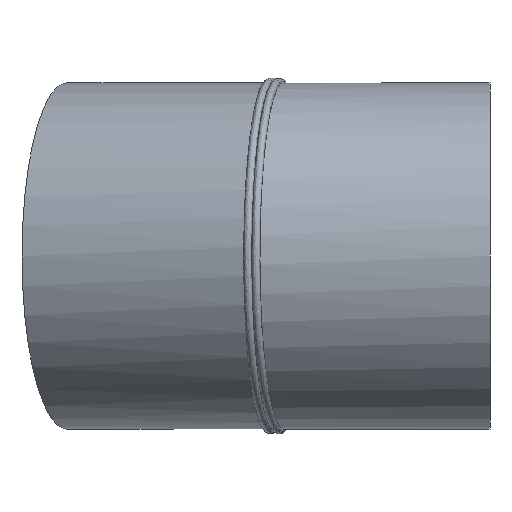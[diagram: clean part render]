
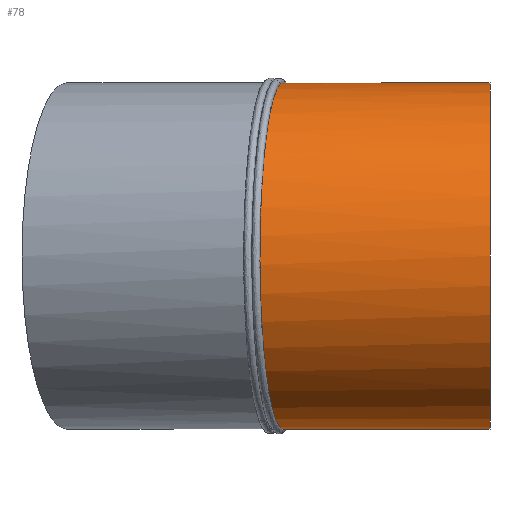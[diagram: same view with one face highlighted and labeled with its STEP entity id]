
A CAD part, left-side view. The second image highlights one B-rep face of the part: STEP entity #78.
In plain terms, the highlighted cylindrical face has radius 315 mm (diameter 630 mm), a full revolution.
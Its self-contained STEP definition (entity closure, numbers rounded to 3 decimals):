
#32=B_SPLINE_CURVE_WITH_KNOTS('',3,(#131,#132,#133,#134,#135,#136,#137,
#138,#139,#140,#141,#142,#143,#144,#145,#146,#147,#148,#149,#150,#151,#152,
#153,#154,#155,#156,#157,#158,#159,#160,#161,#162,#163,#164,#165,#166,#167,
#168,#169,#170,#171,#172,#173,#174,#175,#176,#177,#178,#179,#180,#181,#182,
#183,#184,#185,#186,#187,#188,#189,#190,#191,#192,#193,#194,#195,#196,#197,
#198,#199,#200,#201,#202,#203,#204,#205,#206,#207,#208,#209,#210,#211,#212,
#213,#214,#215,#216,#217,#218,#219,#220,#221,#222,#223,#224,#225,#226,#227,
#228,#229,#230,#231),.UNSPECIFIED.,.T.,.F.,(1,1,1,1,1,1,1,1,1,1,1,1,1,1,
1,1,1,1,1,1,1,1,1,1,1,1,1,1,1,1,1,1,1,1,1,1,1,1,1,1,1,1,1,1,1,1,1,1,1,1,
1,1,1,1,1,1,1,1,1,1,1,1,1,1,1,1,1,1,1,1,1,1,1,1,1,1,1,1,1,1,1,1,1,1,1,1,
1,1,1,1,1,1,1,1,1,1,1,1,1,1,1,1,1,1,1),(-0.062,-0.031,
-0.016,0.,0.016,0.031,
0.062,0.078,0.094,0.125,
0.156,0.172,0.187,0.203,
0.218,0.234,0.25,0.281,
0.296,0.312,0.328,0.343,
0.359,0.374,0.39,0.406,
0.437,0.452,0.468,0.499,
0.53,0.546,0.562,0.593,
0.624,0.639,0.655,0.671,
0.686,0.702,0.717,0.749,
0.764,0.78,0.811,0.842,
0.858,0.873,0.905,0.936,
0.967,0.983,0.998,1.014,
1.029,1.045,1.061,1.076,1.092,
1.123,1.139,1.154,1.185,1.217,
1.232,1.248,1.279,1.31,1.341,
1.357,1.373,1.388,1.404,1.435,
1.466,1.482,1.497,1.513,1.529,
1.56,1.575,1.591,1.607,1.622,
1.638,1.653,1.685,1.716,1.731,
1.747,1.778,1.809,1.825,1.841,
1.856,1.872,1.887,1.903,1.934,
1.965,1.981,1.996,2.012,2.028,
2.059),.UNSPECIFIED.);
#34=ORIENTED_EDGE('',*,*,#44,.T.);
#35=ORIENTED_EDGE('',*,*,#45,.F.);
#44=EDGE_CURVE('',#49,#49,#54,.T.);
#45=EDGE_CURVE('',#50,#50,#32,.T.);
#49=VERTEX_POINT('',#130);
#50=VERTEX_POINT('',#232);
#54=CIRCLE('',#99,315.);
#56=EDGE_LOOP('',(#34));
#57=EDGE_LOOP('',(#35));
#66=FACE_BOUND('',#56,.T.);
#67=FACE_BOUND('',#57,.T.);
#76=CYLINDRICAL_SURFACE('',#98,315.);
#78=ADVANCED_FACE('',(#66,#67),#76,.T.);
#98=AXIS2_PLACEMENT_3D('',#128,#109,#110);
#99=AXIS2_PLACEMENT_3D('',#129,#111,#112);
#109=DIRECTION('',(0.,-1.,0.));
#110=DIRECTION('',(0.,0.,-1.));
#111=DIRECTION('',(0.,1.,0.));
#112=DIRECTION('',(1.,0.,0.));
#128=CARTESIAN_POINT('',(0.,650.,0.));
#129=CARTESIAN_POINT('',(0.,0.,0.));
#130=CARTESIAN_POINT('',(315.,0.,0.));
#131=CARTESIAN_POINT('',(15.43,374.426,-314.747));
#132=CARTESIAN_POINT('',(0.01,376.468,-315.127));
#133=CARTESIAN_POINT('',(-15.472,378.52,-314.747));
#134=CARTESIAN_POINT('',(-36.002,381.242,-313.231));
#135=CARTESIAN_POINT('',(-56.299,383.935,-310.227));
#136=CARTESIAN_POINT('',(-76.435,386.61,-305.716));
#137=CARTESIAN_POINT('',(-96.239,389.242,-300.244));
#138=CARTESIAN_POINT('',(-120.236,392.434,-291.682));
#139=CARTESIAN_POINT('',(-143.286,395.503,-280.85));
#140=CARTESIAN_POINT('',(-161.131,397.881,-270.816));
#141=CARTESIAN_POINT('',(-174.247,399.63,-262.57));
#142=CARTESIAN_POINT('',(-186.935,401.322,-253.693));
#143=CARTESIAN_POINT('',(-199.151,402.953,-244.22));
#144=CARTESIAN_POINT('',(-210.914,404.523,-234.138));
#145=CARTESIAN_POINT('',(-225.954,406.532,-219.902));
#146=CARTESIAN_POINT('',(-239.852,408.39,-204.654));
#147=CARTESIAN_POINT('',(-252.657,410.103,-188.335));
#148=CARTESIAN_POINT('',(-261.62,411.302,-175.67));
#149=CARTESIAN_POINT('',(-269.945,412.416,-162.588));
#150=CARTESIAN_POINT('',(-277.642,413.446,-149.067));
#151=CARTESIAN_POINT('',(-284.66,414.386,-135.182));
#152=CARTESIAN_POINT('',(-290.972,415.232,-120.999));
#153=CARTESIAN_POINT('',(-296.586,415.984,-106.501));
#154=CARTESIAN_POINT('',(-303.127,416.86,-86.762));
#155=CARTESIAN_POINT('',(-308.167,417.536,-66.686));
#156=CARTESIAN_POINT('',(-311.727,418.013,-46.174));
#157=CARTESIAN_POINT('',(-314.249,418.352,-25.654));
#158=CARTESIAN_POINT('',(-315.5,418.519,-0.015));
#159=CARTESIAN_POINT('',(-314.252,418.352,25.62));
#160=CARTESIAN_POINT('',(-311.736,418.014,46.118));
#161=CARTESIAN_POINT('',(-308.18,417.538,66.629));
#162=CARTESIAN_POINT('',(-301.88,416.693,91.74));
#163=CARTESIAN_POINT('',(-293.094,415.516,116.227));
#164=CARTESIAN_POINT('',(-284.683,414.389,135.133));
#165=CARTESIAN_POINT('',(-277.671,413.45,149.013));
#166=CARTESIAN_POINT('',(-269.973,412.42,162.543));
#167=CARTESIAN_POINT('',(-261.649,411.306,175.627));
#168=CARTESIAN_POINT('',(-252.69,410.107,188.291));
#169=CARTESIAN_POINT('',(-239.886,408.395,204.615));
#170=CARTESIAN_POINT('',(-225.991,406.537,219.864));
#171=CARTESIAN_POINT('',(-210.947,404.528,234.108));
#172=CARTESIAN_POINT('',(-195.304,402.439,247.519));
#173=CARTESIAN_POINT('',(-174.749,399.696,262.677));
#174=CARTESIAN_POINT('',(-152.854,396.778,275.76));
#175=CARTESIAN_POINT('',(-134.544,394.339,284.961));
#176=CARTESIAN_POINT('',(-115.65,391.824,293.32));
#177=CARTESIAN_POINT('',(-91.439,388.603,301.964));
#178=CARTESIAN_POINT('',(-61.38,384.609,309.476));
#179=CARTESIAN_POINT('',(-35.971,381.237,313.236));
#180=CARTESIAN_POINT('',(-15.392,378.509,314.75));
#181=CARTESIAN_POINT('',(0.022,376.467,315.125));
#182=CARTESIAN_POINT('',(15.43,374.426,314.748));
#183=CARTESIAN_POINT('',(30.855,372.385,313.612));
#184=CARTESIAN_POINT('',(46.181,370.358,311.724));
#185=CARTESIAN_POINT('',(61.37,368.35,309.092));
#186=CARTESIAN_POINT('',(76.44,366.359,305.715));
#187=CARTESIAN_POINT('',(96.332,363.733,300.218));
#188=CARTESIAN_POINT('',(115.687,361.179,293.305));
#189=CARTESIAN_POINT('',(134.591,358.688,284.939));
#190=CARTESIAN_POINT('',(152.931,356.272,275.718));
#191=CARTESIAN_POINT('',(174.822,353.39,262.628));
#192=CARTESIAN_POINT('',(195.357,350.69,247.476));
#193=CARTESIAN_POINT('',(210.95,348.641,234.105));
#194=CARTESIAN_POINT('',(225.999,346.664,219.856));
#195=CARTESIAN_POINT('',(243.378,344.383,200.782));
#196=CARTESIAN_POINT('',(261.991,341.942,175.807));
#197=CARTESIAN_POINT('',(275.324,340.195,153.655));
#198=CARTESIAN_POINT('',(284.694,338.967,135.111));
#199=CARTESIAN_POINT('',(291.004,338.141,120.921));
#200=CARTESIAN_POINT('',(296.61,337.407,106.437));
#201=CARTESIAN_POINT('',(303.149,336.551,86.685));
#202=CARTESIAN_POINT('',(309.415,335.731,61.676));
#203=CARTESIAN_POINT('',(313.201,335.235,36.268));
#204=CARTESIAN_POINT('',(314.735,335.035,15.71));
#205=CARTESIAN_POINT('',(315.129,334.983,0.144));
#206=CARTESIAN_POINT('',(314.749,335.033,-15.447));
#207=CARTESIAN_POINT('',(313.223,335.232,-36.121));
#208=CARTESIAN_POINT('',(310.154,335.634,-56.726));
#209=CARTESIAN_POINT('',(305.589,336.231,-76.945));
#210=CARTESIAN_POINT('',(301.417,336.778,-91.946));
#211=CARTESIAN_POINT('',(296.5,337.421,-106.74));
#212=CARTESIAN_POINT('',(290.879,338.157,-121.222));
#213=CARTESIAN_POINT('',(284.544,338.987,-135.428));
#214=CARTESIAN_POINT('',(275.16,340.216,-153.947));
#215=CARTESIAN_POINT('',(261.891,341.955,-175.933));
#216=CARTESIAN_POINT('',(246.579,343.964,-196.49));
#217=CARTESIAN_POINT('',(233.109,345.731,-212.05));
#218=CARTESIAN_POINT('',(218.783,347.612,-227.038));
#219=CARTESIAN_POINT('',(199.642,350.127,-244.312));
#220=CARTESIAN_POINT('',(178.808,352.866,-259.69));
#221=CARTESIAN_POINT('',(161.378,355.16,-270.669));
#222=CARTESIAN_POINT('',(147.904,356.934,-278.262));
#223=CARTESIAN_POINT('',(134.043,358.76,-285.197));
#224=CARTESIAN_POINT('',(119.913,360.622,-291.419));
#225=CARTESIAN_POINT('',(105.501,362.523,-296.942));
#226=CARTESIAN_POINT('',(85.869,365.114,-303.377));
#227=CARTESIAN_POINT('',(61.031,368.394,-309.535));
#228=CARTESIAN_POINT('',(35.82,371.728,-313.248));
#229=CARTESIAN_POINT('',(15.43,374.426,-314.747));
#230=CARTESIAN_POINT('',(0.01,376.468,-315.127));
#231=CARTESIAN_POINT('',(-15.472,378.52,-314.747));
#232=CARTESIAN_POINT('',(0.,376.47,-315.));
